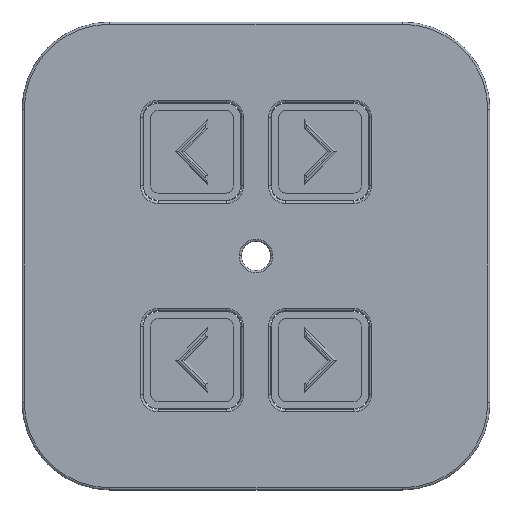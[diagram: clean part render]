
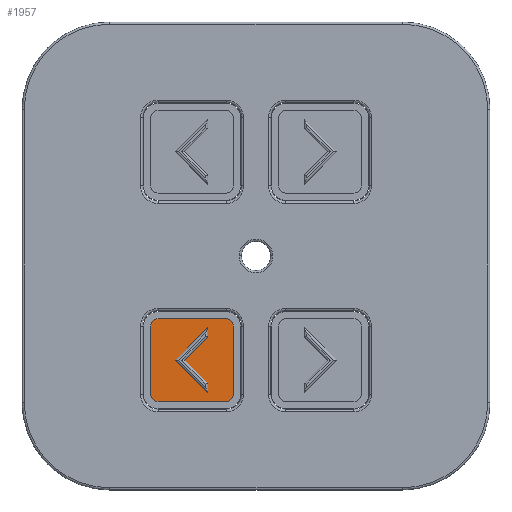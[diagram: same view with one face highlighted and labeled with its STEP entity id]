
A CAD part, top view. The second image highlights one B-rep face of the part: STEP entity #1957.
In plain terms, the highlighted planar face has unit normal (0, 0, 1).
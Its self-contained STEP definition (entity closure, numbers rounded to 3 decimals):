
#217 = LINE ( 'NONE', #8092, #228 ) ;
#218 = LINE ( 'NONE', #8123, #219 ) ;
#219 = VECTOR ( 'NONE', #8124, 1000. ) ;
#224 = LINE ( 'NONE', #8125, #230 ) ;
#225 = LINE ( 'NONE', #8121, #226 ) ;
#226 = VECTOR ( 'NONE', #8122, 1000. ) ;
#227 = LINE ( 'NONE', #8127, #232 ) ;
#228 = VECTOR ( 'NONE', #8126, 1000. ) ;
#230 = VECTOR ( 'NONE', #8128, 1000. ) ;
#232 = VECTOR ( 'NONE', #8130, 1000. ) ;
#1092 = ORIENTED_EDGE ( 'NONE', *, *, #2130, .T. ) ;
#1106 = ORIENTED_EDGE ( 'NONE', *, *, #2126, .T. ) ;
#1110 = ORIENTED_EDGE ( 'NONE', *, *, #2132, .T. ) ;
#1112 = ORIENTED_EDGE ( 'NONE', *, *, #2133, .T. ) ;
#1113 = ORIENTED_EDGE ( 'NONE', *, *, #2457, .T. ) ;
#1114 = ORIENTED_EDGE ( 'NONE', *, *, #2122, .F. ) ;
#1115 = ORIENTED_EDGE ( 'NONE', *, *, #1990, .F. ) ;
#1117 = ORIENTED_EDGE ( 'NONE', *, *, #1992, .F. ) ;
#1119 = ORIENTED_EDGE ( 'NONE', *, *, #1993, .F. ) ;
#1142 = ORIENTED_EDGE ( 'NONE', *, *, #2450, .T. ) ;
#1143 = ORIENTED_EDGE ( 'NONE', *, *, #2131, .T. ) ;
#1146 = ORIENTED_EDGE ( 'NONE', *, *, #2127, .T. ) ;
#1150 = ORIENTED_EDGE ( 'NONE', *, *, #1991, .F. ) ;
#1155 = ORIENTED_EDGE ( 'NONE', *, *, #1994, .F. ) ;
#1957 = ADVANCED_FACE ( 'NONE', ( #4084, #4091 ), #6887, .T. ) ;
#1990 = EDGE_CURVE ( 'NONE', #4287, #4286, #225, .T. ) ;
#1991 = EDGE_CURVE ( 'NONE', #4285, #4577, #218, .T. ) ;
#1992 = EDGE_CURVE ( 'NONE', #4288, #4287, #217, .T. ) ;
#1993 = EDGE_CURVE ( 'NONE', #4286, #4285, #224, .T. ) ;
#1994 = EDGE_CURVE ( 'NONE', #4574, #4288, #227, .T. ) ;
#2122 = EDGE_CURVE ( 'NONE', #4577, #4574, #5056, .T. ) ;
#2126 = EDGE_CURVE ( 'NONE', #4580, #4581, #5061, .T. ) ;
#2127 = EDGE_CURVE ( 'NONE', #8156, #8159, #5063, .T. ) ;
#2130 = EDGE_CURVE ( 'NONE', #8159, #8155, #5065, .T. ) ;
#2131 = EDGE_CURVE ( 'NONE', #4579, #4580, #5067, .T. ) ;
#2132 = EDGE_CURVE ( 'NONE', #8155, #8158, #5070, .T. ) ;
#2133 = EDGE_CURVE ( 'NONE', #8158, #4578, #5060, .T. ) ;
#2324 = CARTESIAN_POINT ( 'NONE',  ( -13.446, -9.339, 1.8 ) ) ;
#2328 = CARTESIAN_POINT ( 'NONE',  ( -3.146, -10.339, 1.8 ) ) ;
#2329 = CARTESIAN_POINT ( 'NONE',  ( -14.446, -10.339, 1.8 ) ) ;
#2330 = CARTESIAN_POINT ( 'NONE',  ( -4.146, -9.339, 1.8 ) ) ;
#2450 = EDGE_CURVE ( 'NONE', #4578, #4579, #5173, .T. ) ;
#2457 = EDGE_CURVE ( 'NONE', #4581, #8156, #5183, .T. ) ;
#2996 = CARTESIAN_POINT ( 'NONE',  ( -13.446, -19.639, 1.8 ) ) ;
#3000 = DIRECTION ( 'NONE',  ( 0., 0., 1. ) ) ;
#3001 = DIRECTION ( 'NONE',  ( 1., 0., 0. ) ) ;
#3018 = CARTESIAN_POINT ( 'NONE',  ( -3.146, -10.339, 1.8 ) ) ;
#3019 = DIRECTION ( 'NONE',  ( 0., 1., 0. ) ) ;
#3302 = CARTESIAN_POINT ( 'NONE',  ( -6.649, -11.843, 1.8 ) ) ;
#3303 = CARTESIAN_POINT ( 'NONE',  ( -9.796, -14.989, 1.8 ) ) ;
#3304 = CARTESIAN_POINT ( 'NONE',  ( -6.649, -18.136, 1.8 ) ) ;
#3305 = CARTESIAN_POINT ( 'NONE',  ( -6.649, -19.436, 1.8 ) ) ;
#3662 = AXIS2_PLACEMENT_3D ( 'NONE', #6886, #6895, #6896 ) ;
#3740 = AXIS2_PLACEMENT_3D ( 'NONE', #7275, #7285, #7286 ) ;
#3763 = AXIS2_PLACEMENT_3D ( 'NONE', #2996, #3000, #3001 ) ;
#4084 = FACE_OUTER_BOUND ( 'NONE', #6121, .T. ) ;
#4091 = FACE_BOUND ( 'NONE', #6145, .T. ) ;
#4285 = VERTEX_POINT ( 'NONE', #3302 ) ;
#4286 = VERTEX_POINT ( 'NONE', #3303 ) ;
#4287 = VERTEX_POINT ( 'NONE', #3304 ) ;
#4288 = VERTEX_POINT ( 'NONE', #3305 ) ;
#4574 = VERTEX_POINT ( 'NONE', #5695 ) ;
#4577 = VERTEX_POINT ( 'NONE', #5698 ) ;
#4578 = VERTEX_POINT ( 'NONE', #5699 ) ;
#4579 = VERTEX_POINT ( 'NONE', #5700 ) ;
#4580 = VERTEX_POINT ( 'NONE', #5701 ) ;
#4581 = VERTEX_POINT ( 'NONE', #5702 ) ;
#4985 = AXIS2_PLACEMENT_3D ( 'NONE', #7264, #7269, #7270 ) ;
#4986 = AXIS2_PLACEMENT_3D ( 'NONE', #7271, #7273, #7274 ) ;
#5056 = LINE ( 'NONE', #7254, #5057 ) ;
#5057 = VECTOR ( 'NONE', #7255, 1000. ) ;
#5058 = VECTOR ( 'NONE', #7288, 1000. ) ;
#5060 = LINE ( 'NONE', #7287, #5058 ) ;
#5061 = CIRCLE ( 'NONE', #4985, 1. ) ;
#5063 = CIRCLE ( 'NONE', #4986, 1. ) ;
#5065 = LINE ( 'NONE', #7281, #5066 ) ;
#5066 = VECTOR ( 'NONE', #7282, 1000. ) ;
#5067 = LINE ( 'NONE', #7283, #5068 ) ;
#5068 = VECTOR ( 'NONE', #7284, 1000. ) ;
#5070 = CIRCLE ( 'NONE', #3740, 1. ) ;
#5173 = CIRCLE ( 'NONE', #3763, 1. ) ;
#5183 = LINE ( 'NONE', #3018, #5184 ) ;
#5184 = VECTOR ( 'NONE', #3019, 1000. ) ;
#5695 = CARTESIAN_POINT ( 'NONE',  ( -11.096, -14.989, 1.8 ) ) ;
#5698 = CARTESIAN_POINT ( 'NONE',  ( -6.649, -10.543, 1.8 ) ) ;
#5699 = CARTESIAN_POINT ( 'NONE',  ( -14.446, -19.639, 1.8 ) ) ;
#5700 = CARTESIAN_POINT ( 'NONE',  ( -13.446, -20.639, 1.8 ) ) ;
#5701 = CARTESIAN_POINT ( 'NONE',  ( -4.146, -20.639, 1.8 ) ) ;
#5702 = CARTESIAN_POINT ( 'NONE',  ( -3.146, -19.639, 1.8 ) ) ;
#6121 = EDGE_LOOP ( 'NONE', ( #1142, #1143, #1106, #1113, #1146, #1092, #1110, #1112 ) ) ;
#6145 = EDGE_LOOP ( 'NONE', ( #1114, #1150, #1119, #1115, #1117, #1155 ) ) ;
#6886 = CARTESIAN_POINT ( 'NONE',  ( -13.446, -19.639, 1.8 ) ) ;
#6887 = PLANE ( 'NONE',  #3662 ) ;
#6895 = DIRECTION ( 'NONE',  ( 0., 0., 1. ) ) ;
#6896 = DIRECTION ( 'NONE',  ( 1., 0., 0. ) ) ;
#7254 = CARTESIAN_POINT ( 'NONE',  ( -6.649, -10.543, 1.8 ) ) ;
#7255 = DIRECTION ( 'NONE',  ( -0.707, -0.707, 0. ) ) ;
#7264 = CARTESIAN_POINT ( 'NONE',  ( -4.146, -19.639, 1.8 ) ) ;
#7269 = DIRECTION ( 'NONE',  ( 0., 0., 1. ) ) ;
#7270 = DIRECTION ( 'NONE',  ( 1., 0., 0. ) ) ;
#7271 = CARTESIAN_POINT ( 'NONE',  ( -4.146, -10.339, 1.8 ) ) ;
#7273 = DIRECTION ( 'NONE',  ( 0., 0., 1. ) ) ;
#7274 = DIRECTION ( 'NONE',  ( 1., 0., 0. ) ) ;
#7275 = CARTESIAN_POINT ( 'NONE',  ( -13.446, -10.339, 1.8 ) ) ;
#7281 = CARTESIAN_POINT ( 'NONE',  ( -13.446, -9.339, 1.8 ) ) ;
#7282 = DIRECTION ( 'NONE',  ( -1., 0., 0. ) ) ;
#7283 = CARTESIAN_POINT ( 'NONE',  ( -13.446, -20.639, 1.8 ) ) ;
#7284 = DIRECTION ( 'NONE',  ( 1., 0., 0. ) ) ;
#7285 = DIRECTION ( 'NONE',  ( 0., 0., 1. ) ) ;
#7286 = DIRECTION ( 'NONE',  ( 1., 0., 0. ) ) ;
#7287 = CARTESIAN_POINT ( 'NONE',  ( -14.446, -10.339, 1.8 ) ) ;
#7288 = DIRECTION ( 'NONE',  ( 0., -1., 0. ) ) ;
#8092 = CARTESIAN_POINT ( 'NONE',  ( -6.649, -19.436, 1.8 ) ) ;
#8121 = CARTESIAN_POINT ( 'NONE',  ( -6.649, -18.136, 1.8 ) ) ;
#8122 = DIRECTION ( 'NONE',  ( -0.707, 0.707, 0. ) ) ;
#8123 = CARTESIAN_POINT ( 'NONE',  ( -6.649, -10.543, 1.8 ) ) ;
#8124 = DIRECTION ( 'NONE',  ( 0., 1., 0. ) ) ;
#8125 = CARTESIAN_POINT ( 'NONE',  ( -6.649, -11.843, 1.8 ) ) ;
#8126 = DIRECTION ( 'NONE',  ( 0., 1., 0. ) ) ;
#8127 = CARTESIAN_POINT ( 'NONE',  ( -6.649, -19.436, 1.8 ) ) ;
#8128 = DIRECTION ( 'NONE',  ( 0.707, 0.707, 0. ) ) ;
#8130 = DIRECTION ( 'NONE',  ( 0.707, -0.707, 0. ) ) ;
#8155 = VERTEX_POINT ( 'NONE', #2324 ) ;
#8156 = VERTEX_POINT ( 'NONE', #2328 ) ;
#8158 = VERTEX_POINT ( 'NONE', #2329 ) ;
#8159 = VERTEX_POINT ( 'NONE', #2330 ) ;
